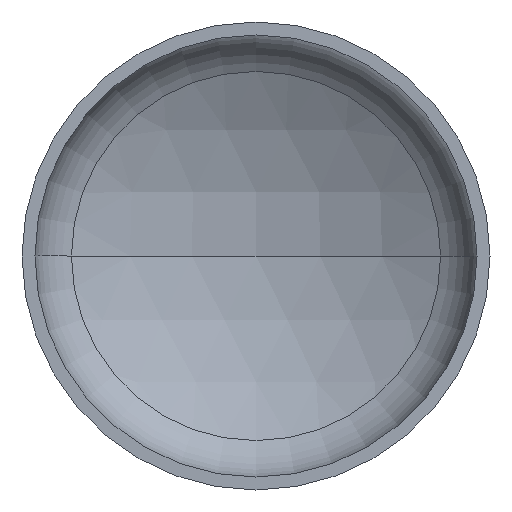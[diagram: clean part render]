
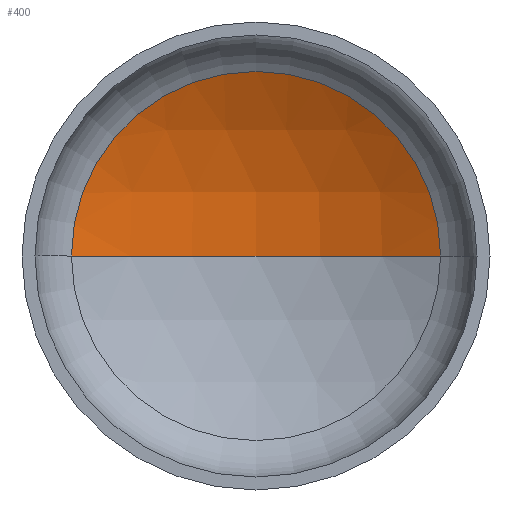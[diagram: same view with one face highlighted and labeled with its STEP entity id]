
A CAD part, front view. The second image highlights one B-rep face of the part: STEP entity #400.
In plain terms, the highlighted spherical face has radius 1040 mm.
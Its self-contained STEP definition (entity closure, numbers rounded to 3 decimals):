
#15 = EDGE_LOOP ( 'NONE', ( #118, #109, #57 ) ) ;
#20 = AXIS2_PLACEMENT_3D ( 'NONE', #373, #229, #163 ) ;
#28 = AXIS2_PLACEMENT_3D ( 'NONE', #162, #41, #281 ) ;
#30 = AXIS2_PLACEMENT_3D ( 'NONE', #132, #134, #137 ) ;
#41 = DIRECTION ( 'NONE',  ( 0., 0., 1. ) ) ;
#49 = CARTESIAN_POINT ( 'NONE',  ( 0., -620.893, 0. ) ) ;
#57 = ORIENTED_EDGE ( 'NONE', *, *, #351, .T. ) ;
#102 = VERTEX_POINT ( 'NONE', #304 ) ;
#109 = ORIENTED_EDGE ( 'NONE', *, *, #327, .T. ) ;
#113 = VERTEX_POINT ( 'NONE', #305 ) ;
#118 = ORIENTED_EDGE ( 'NONE', *, *, #339, .F. ) ;
#121 = VERTEX_POINT ( 'NONE', #197 ) ;
#132 = CARTESIAN_POINT ( 'NONE',  ( 0., -620.893, 0. ) ) ;
#134 = DIRECTION ( 'NONE',  ( 0., 0., -1. ) ) ;
#137 = DIRECTION ( 'NONE',  ( -1., 0., 0. ) ) ;
#143 = DIRECTION ( 'NONE',  ( 0., 0., -1. ) ) ;
#162 = CARTESIAN_POINT ( 'NONE',  ( 0., -620.893, 0. ) ) ;
#163 = DIRECTION ( 'NONE',  ( 1., 0., 0. ) ) ;
#168 = DIRECTION ( 'NONE',  ( -1., 0., 0. ) ) ;
#175 = CIRCLE ( 'NONE', #30, 1040. ) ;
#197 = CARTESIAN_POINT ( 'NONE',  ( 0., 419.107, 0. ) ) ;
#205 = SPHERICAL_SURFACE ( 'NONE', #401, 1040. ) ;
#215 = FACE_OUTER_BOUND ( 'NONE', #15, .T. ) ;
#229 = DIRECTION ( 'NONE',  ( 0., -1., 0. ) ) ;
#281 = DIRECTION ( 'NONE',  ( 1., 0., 0. ) ) ;
#293 = CIRCLE ( 'NONE', #28, 1040. ) ;
#304 = CARTESIAN_POINT ( 'NONE',  ( 512.571, 284.022, 0. ) ) ;
#305 = CARTESIAN_POINT ( 'NONE',  ( -512.571, 284.022, 0. ) ) ;
#327 = EDGE_CURVE ( 'NONE', #121, #102, #175, .T. ) ;
#339 = EDGE_CURVE ( 'NONE', #121, #113, #293, .T. ) ;
#351 = EDGE_CURVE ( 'NONE', #102, #113, #410, .T. ) ;
#373 = CARTESIAN_POINT ( 'NONE',  ( 0., 284.022, 0. ) ) ;
#400 = ADVANCED_FACE ( 'NONE', ( #215 ), #205, .F. ) ;
#401 = AXIS2_PLACEMENT_3D ( 'NONE', #49, #143, #168 ) ;
#410 = CIRCLE ( 'NONE', #20, 512.571 ) ;
